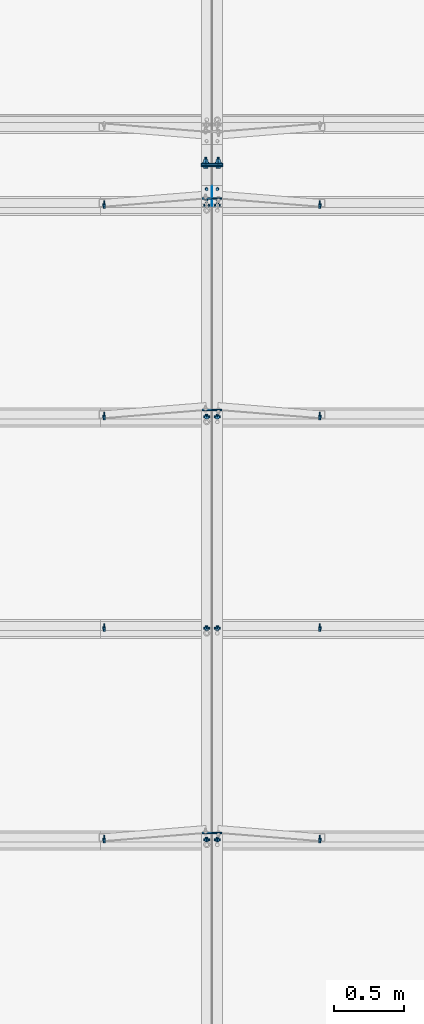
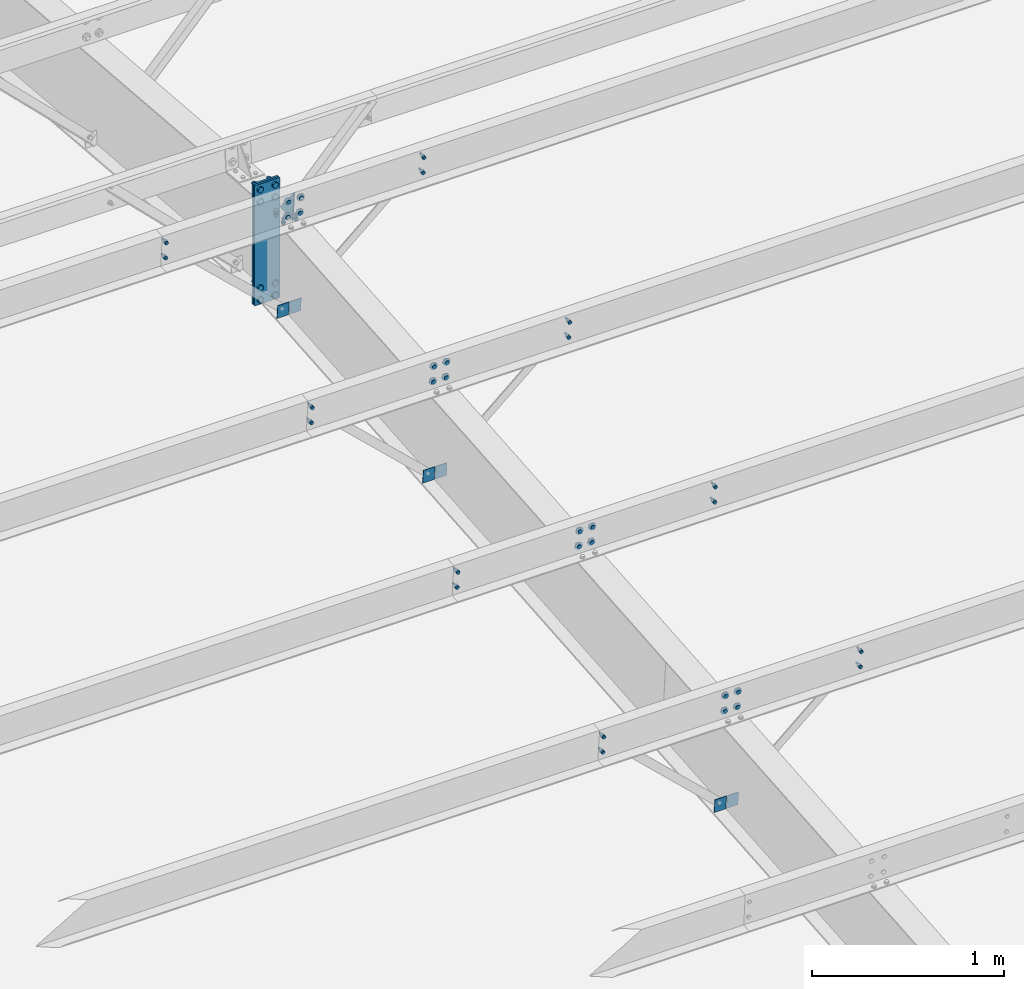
# One storey, part 78 of 185: 19 mechanical fasteners, 9 discrete accessories, 11 elements without a shape of their own.
"""IFC2X3 building model written with IfcOpenShell, lengths in millimetres."""

from ifc_helpers import new_model, si_unit, frame, origin_with_axes, origin_2d_with_axis, place, context, subcontext, project, spatial, polyline, rectangle, circle, outline, extrude, source, transform, mapped, material, type_object, element, aggregate, save


model = new_model("IFC2X3")

# Units and contexts
model_context = context("Model", 3, precision=1e-05, world=origin_with_axes())
body_context = subcontext(model_context, "Body", "Model", "MODEL_VIEW")
ifc_project = project(units=[si_unit("LENGTHUNIT", "METRE", prefix="MILLI"), si_unit("AREAUNIT", "SQUARE_METRE"), si_unit("VOLUMEUNIT", "CUBIC_METRE"), si_unit("MASSUNIT", "GRAM", prefix="KILO"), si_unit("TIMEUNIT", "SECOND"), si_unit("PLANEANGLEUNIT", "RADIAN"), si_unit("SOLIDANGLEUNIT", "STERADIAN"), si_unit("THERMODYNAMICTEMPERATUREUNIT", "DEGREE_CELSIUS"), si_unit("LUMINOUSINTENSITYUNIT", "LUMEN")], contexts=[model_context])

# Site, building, storey
site_placement = place(None, origin_with_axes())
site = spatial("IfcSite", under=ifc_project, at=site_placement, Name="Undefined", CompositionType="ELEMENT")
building_placement = place(site_placement, origin_with_axes())
building = spatial("IfcBuilding", under=site, at=building_placement, Name="Undefined", CompositionType="ELEMENT")
storey_placement = place(building_placement, origin_with_axes())
storey = spatial("IfcBuildingStorey", under=building, at=storey_placement, Name="Undefined", CompositionType="ELEMENT", Elevation=0.0)

# Assembly, mechanical fastener
assembly_1_placement = place(storey_placement, origin_with_axes())
assembly_1 = element("IfcElementAssembly", 1, at=assembly_1_placement, inside=storey, Name="Steel Assembly", AssemblyPlace="NOTDEFINED", PredefinedType="RIGID_FRAME")
ifc_material_1 = material(Name="Undefined")
discrete_accessory_type_1 = type_object("IfcDiscreteAccessoryType", Name="Bolt assembly")
shared_shape_1 = source(origin_with_axes(), body_context, "Body", "SweptSolid", [
    extrude(circle(Radius=7.14374971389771, at=origin_2d_with_axis()), frame((0.0, -1.59000001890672, 0.0), z_axis=(0.0, 1.0, 0.0), x_axis=(1.0, 0.0, 0.0)), (0.0, 0.0, 1.0), 3.3),
    extrude(circle(Radius=13.4937496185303, at=origin_2d_with_axis()), frame((0.0, -5.5587500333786, 0.0), z_axis=(0.0, 1.0, 0.0), x_axis=(1.0, 0.0, 0.0)), (0.0, 0.0, 1.0), 4.0),
    extrude(circle(Radius=22.2250003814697, at=origin_2d_with_axis()), frame((0.0, 1.5900000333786, 0.0), z_axis=(0.0, 1.0, 0.0), x_axis=(1.0, 0.0, 0.0)), (0.0, 0.0, 1.0), 7.9),
    extrude(outline(polyline([(12.8316099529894, 0.0), (6.4158049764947, 11.1125001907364), (-6.4158049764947, 11.1125001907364), (-12.8316099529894, 0.0), (-6.4158049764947, -11.1125001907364), (6.4158049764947, -11.1125001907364), (12.8316099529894, 0.0)])), frame((0.0, 9.5275000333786, 0.0), z_axis=(0.0, 1.0, 0.0), x_axis=(1.0, 0.0, 0.0)), (0.0, 0.0, 1.0), 12.3),
])
mechanical_fastener_1_placement = place(assembly_1_placement, frame((22517.1, 11146.2647809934, 6973.87931658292), z_axis=(1.0, 0.0, 0.0), x_axis=(0.0, 0.0830454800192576, -0.996545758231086)))
mechanical_fastener_1 = element("IfcMechanicalFastener", 2, at=mechanical_fastener_1_placement, type_object=discrete_accessory_type_1, material=ifc_material_1, Name="Bolt assembly", NominalDiameter=12.6999998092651, NominalLength=38.0999984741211, context=body_context, shape_type="MappedRepresentation", body=[
    mapped(shared_shape_1, transform((0.0, 0.0, 0.0))),
    mapped(shared_shape_1, transform((101.599998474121, 0.0, 0.0))),
])
aggregate(assembly_1, [mechanical_fastener_1])

assembly_2_placement = place(storey_placement, origin_with_axes())
assembly_2 = element("IfcElementAssembly", 3, at=assembly_2_placement, inside=storey, Name="Steel Assembly", AssemblyPlace="NOTDEFINED", PredefinedType="RIGID_FRAME")
mechanical_fastener_2_placement = place(assembly_2_placement, frame((22440.9, 11146.2647809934, 6973.87931658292), z_axis=(1.0, 0.0, 0.0), x_axis=(0.0, 0.0830454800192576, -0.996545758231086)))
mechanical_fastener_2 = element("IfcMechanicalFastener", 4, at=mechanical_fastener_2_placement, type_object=discrete_accessory_type_1, material=ifc_material_1, Name="Bolt assembly", NominalDiameter=12.6999998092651, NominalLength=38.0999984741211, context=body_context, shape_type="MappedRepresentation", body=[
    mapped(shared_shape_1, transform((0.0, 0.0, 0.0))),
    mapped(shared_shape_1, transform((101.599998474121, 0.0, 0.0))),
])

assembly_3_placement = place(storey_placement, origin_with_axes())
assembly_3 = element("IfcElementAssembly", 5, at=assembly_3_placement, inside=storey, Name="Steel Assembly", AssemblyPlace="NOTDEFINED", PredefinedType="RIGID_FRAME")
mechanical_fastener_3_placement = place(assembly_3_placement, frame((22517.1, 12665.0005165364, 7100.44062813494), z_axis=(1.0, 0.0, 0.0), x_axis=(0.0, 0.0830454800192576, -0.996545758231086)))
mechanical_fastener_3 = element("IfcMechanicalFastener", 6, at=mechanical_fastener_3_placement, type_object=discrete_accessory_type_1, material=ifc_material_1, Name="Bolt assembly", NominalDiameter=12.6999998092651, NominalLength=38.0999984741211, context=body_context, shape_type="MappedRepresentation", body=[
    mapped(shared_shape_1, transform((0.0, 0.0, 0.0))),
    mapped(shared_shape_1, transform((101.599998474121, 0.0, 0.0))),
])
aggregate(assembly_3, [mechanical_fastener_3])

assembly_4_placement = place(storey_placement, origin_with_axes())
assembly_4 = element("IfcElementAssembly", 7, at=assembly_4_placement, inside=storey, Name="Steel Assembly", AssemblyPlace="NOTDEFINED", PredefinedType="RIGID_FRAME")
mechanical_fastener_4_placement = place(assembly_4_placement, frame((22440.9, 12665.0005165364, 7100.44062813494), z_axis=(1.0, 0.0, 0.0), x_axis=(0.0, 0.0830454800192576, -0.996545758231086)))
mechanical_fastener_4 = element("IfcMechanicalFastener", 8, at=mechanical_fastener_4_placement, type_object=discrete_accessory_type_1, material=ifc_material_1, Name="Bolt assembly", NominalDiameter=12.6999998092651, NominalLength=38.0999984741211, context=body_context, shape_type="MappedRepresentation", body=[
    mapped(shared_shape_1, transform((0.0, 0.0, 0.0))),
    mapped(shared_shape_1, transform((101.599998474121, 0.0, 0.0))),
])

assembly_5_placement = place(storey_placement, origin_with_axes())
assembly_5 = element("IfcElementAssembly", 9, at=assembly_5_placement, inside=storey, Name="Steel Assembly", AssemblyPlace="NOTDEFINED", PredefinedType="RIGID_FRAME")
mechanical_fastener_5_placement = place(assembly_5_placement, frame((22517.1, 14183.7362520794, 7227.00193968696), z_axis=(1.0, 0.0, 0.0), x_axis=(0.0, 0.0830454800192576, -0.996545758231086)))
mechanical_fastener_5 = element("IfcMechanicalFastener", 10, at=mechanical_fastener_5_placement, type_object=discrete_accessory_type_1, material=ifc_material_1, Name="Bolt assembly", NominalDiameter=12.6999998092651, NominalLength=38.0999984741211, context=body_context, shape_type="MappedRepresentation", body=[
    mapped(shared_shape_1, transform((0.0, 0.0, 0.0))),
    mapped(shared_shape_1, transform((101.599998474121, 0.0, 0.0))),
])
aggregate(assembly_5, [mechanical_fastener_5])

assembly_6_placement = place(storey_placement, origin_with_axes())
assembly_6 = element("IfcElementAssembly", 11, at=assembly_6_placement, inside=storey, Name="Steel Assembly", AssemblyPlace="NOTDEFINED", PredefinedType="RIGID_FRAME")
mechanical_fastener_6_placement = place(assembly_6_placement, frame((22440.9, 14183.7362520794, 7227.00193968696), z_axis=(1.0, 0.0, 0.0), x_axis=(0.0, 0.0830454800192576, -0.996545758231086)))
mechanical_fastener_6 = element("IfcMechanicalFastener", 12, at=mechanical_fastener_6_placement, type_object=discrete_accessory_type_1, material=ifc_material_1, Name="Bolt assembly", NominalDiameter=12.6999998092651, NominalLength=38.0999984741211, context=body_context, shape_type="MappedRepresentation", body=[
    mapped(shared_shape_1, transform((0.0, 0.0, 0.0))),
    mapped(shared_shape_1, transform((101.599998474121, 0.0, 0.0))),
])

assembly_7_placement = place(storey_placement, origin_with_axes())
assembly_7 = element("IfcElementAssembly", 13, at=assembly_7_placement, inside=storey, Name="Steel Assembly", AssemblyPlace="NOTDEFINED", PredefinedType="RIGID_FRAME")
mechanical_fastener_7_placement = place(assembly_7_placement, frame((22517.1, 15702.4719876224, 7353.56325123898), z_axis=(1.0, 0.0, 0.0), x_axis=(0.0, 0.0830454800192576, -0.996545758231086)))
mechanical_fastener_7 = element("IfcMechanicalFastener", 14, at=mechanical_fastener_7_placement, type_object=discrete_accessory_type_1, material=ifc_material_1, Name="Bolt assembly", NominalDiameter=12.6999998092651, NominalLength=38.0999984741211, context=body_context, shape_type="MappedRepresentation", body=[
    mapped(shared_shape_1, transform((0.0, 0.0, 0.0))),
    mapped(shared_shape_1, transform((101.599998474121, 0.0, 0.0))),
])
aggregate(assembly_7, [mechanical_fastener_7])

assembly_8_placement = place(storey_placement, origin_with_axes())
assembly_8 = element("IfcElementAssembly", 15, at=assembly_8_placement, inside=storey, Name="Steel Assembly", AssemblyPlace="NOTDEFINED", PredefinedType="RIGID_FRAME")
mechanical_fastener_8_placement = place(assembly_8_placement, frame((22440.9, 15702.4719876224, 7353.56325123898), z_axis=(1.0, 0.0, 0.0), x_axis=(0.0, 0.0830454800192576, -0.996545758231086)))
mechanical_fastener_8 = element("IfcMechanicalFastener", 16, at=mechanical_fastener_8_placement, type_object=discrete_accessory_type_1, material=ifc_material_1, Name="Bolt assembly", NominalDiameter=12.6999998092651, NominalLength=38.0999984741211, context=body_context, shape_type="MappedRepresentation", body=[
    mapped(shared_shape_1, transform((0.0, 0.0, 0.0))),
    mapped(shared_shape_1, transform((101.599998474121, 0.0, 0.0))),
])

# Assembly, discrete accessory
assembly_9_placement = place(storey_placement, origin_with_axes())
assembly_9 = element("IfcElementAssembly", 17, at=assembly_9_placement, inside=storey, Name="Steel Assembly", AssemblyPlace="NOTDEFINED", PredefinedType="RIGID_FRAME")
ifc_material_2 = material(Name="STEEL/55")
discrete_accessory_type_2 = type_object("IfcDiscreteAccessoryType", Name="PLATE")
discrete_accessory_1_placement = place(assembly_9_placement, frame((22479.0, 15853.8182223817, 7219.61919678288), z_axis=(-1.0, 0.0, 0.0), x_axis=(0.0, -0.996545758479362, -0.0830454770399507)))
discrete_accessory_1 = element("IfcDiscreteAccessory", 18, at=discrete_accessory_1_placement, type_object=discrete_accessory_type_2, material=ifc_material_2, Name="PLATE", ObjectType="FL1/4\"X5 1/4\"", context=body_context, shape_type="SweptSolid", body=[
    extrude(outline(polyline([(0.0, 0.0), (133.350006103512, 3.70164343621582e-10), (133.350006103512, 190.500000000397), (0.0, 0.0)])), frame((0.0, 0.0, -3.175), z_axis=(0.0, 0.0, 1.0), x_axis=(1.0, 0.0, 0.0)), (0.0, 0.0, 1.0), 6.4),
])

# Assembly, discrete accessories
assembly_10_placement = place(storey_placement, origin_with_axes())
assembly_10 = element("IfcElementAssembly", 19, at=assembly_10_placement, inside=storey, Name="Steel Assembly", AssemblyPlace="NOTDEFINED", PredefinedType="RIGID_FRAME")
discrete_accessory_type_3 = type_object("IfcDiscreteAccessoryType", Name="FLANGE BRACE FLIP")
discrete_accessory_2_placement = place(assembly_10_placement, frame((22480.70815, 15761.151234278, 6628.84524774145), z_axis=(0.0, -0.0830454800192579, 0.996545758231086), x_axis=(1.0, 0.0, 0.0)))
discrete_accessory_2 = element("IfcDiscreteAccessory", 20, at=discrete_accessory_2_placement, type_object=discrete_accessory_type_3, material=ifc_material_2, Name="FLANGE BRACE FLIP", ObjectType="PL1/8\"X2 3/4\"", context=body_context, shape_type="SweptSolid", body=[
    extrude(rectangle(XDim=3.416, YDim=85.725, at=origin_2d_with_axis()), frame((69.8499999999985, 0.0, 0.0), z_axis=(-1.0, 0.0, 0.0), x_axis=(0.0, -1.0, 0.0)), (0.0, 0.0, 1.0), 69.8),
])
discrete_accessory_3_placement = place(assembly_10_placement, frame((22477.29185, 15761.151234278, 6628.84524774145), z_axis=(0.0, -0.0830454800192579, 0.996545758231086), x_axis=(-1.0, 0.0, 0.0)))
discrete_accessory_3 = element("IfcDiscreteAccessory", 21, at=discrete_accessory_3_placement, type_object=discrete_accessory_type_3, material=ifc_material_2, Name="FLANGE BRACE FLIP", ObjectType="PL1/8\"X2 3/4\"", context=body_context, shape_type="SweptSolid", body=[
    extrude(rectangle(XDim=3.416, YDim=85.725, at=origin_2d_with_axis()), frame((69.8499999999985, 0.0, 0.0), z_axis=(-1.0, 0.0, 0.0), x_axis=(0.0, -1.0, 0.0)), (0.0, 0.0, 1.0), 69.8),
])
discrete_accessory_4_placement = place(assembly_10_placement, frame((22480.70815, 14242.4154987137, 6502.28393644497), z_axis=(0.0, -0.0830454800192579, 0.996545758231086), x_axis=(1.0, 0.0, 0.0)))
discrete_accessory_4 = element("IfcDiscreteAccessory", 22, at=discrete_accessory_4_placement, type_object=discrete_accessory_type_3, material=ifc_material_2, Name="FLANGE BRACE FLIP", ObjectType="PL1/8\"X2 3/4\"", context=body_context, shape_type="SweptSolid", body=[
    extrude(rectangle(XDim=3.416, YDim=85.725, at=origin_2d_with_axis()), frame((69.8499999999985, 0.0, 0.0), z_axis=(-1.0, 0.0, 0.0), x_axis=(0.0, -1.0, 0.0)), (0.0, 0.0, 1.0), 69.8),
])
discrete_accessory_5_placement = place(assembly_10_placement, frame((22477.29185, 14242.4154987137, 6502.28393644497), z_axis=(0.0, -0.0830454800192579, 0.996545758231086), x_axis=(-1.0, 0.0, 0.0)))
discrete_accessory_5 = element("IfcDiscreteAccessory", 23, at=discrete_accessory_5_placement, type_object=discrete_accessory_type_3, material=ifc_material_2, Name="FLANGE BRACE FLIP", ObjectType="PL1/8\"X2 3/4\"", context=body_context, shape_type="SweptSolid", body=[
    extrude(rectangle(XDim=3.416, YDim=85.725, at=origin_2d_with_axis()), frame((69.8499999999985, 0.0, 0.0), z_axis=(-1.0, 0.0, 0.0), x_axis=(0.0, -1.0, 0.0)), (0.0, 0.0, 1.0), 69.8),
])
discrete_accessory_6_placement = place(assembly_10_placement, frame((22480.70815, 11204.9440275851, 6249.16131385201), z_axis=(0.0, -0.0830454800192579, 0.996545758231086), x_axis=(1.0, 0.0, 0.0)))
discrete_accessory_6 = element("IfcDiscreteAccessory", 24, at=discrete_accessory_6_placement, type_object=discrete_accessory_type_3, material=ifc_material_2, Name="FLANGE BRACE FLIP", ObjectType="PL1/8\"X2 3/4\"", context=body_context, shape_type="SweptSolid", body=[
    extrude(rectangle(XDim=3.416, YDim=85.725, at=origin_2d_with_axis()), frame((69.8499999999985, 0.0, 0.0), z_axis=(-1.0, 0.0, 0.0), x_axis=(0.0, -1.0, 0.0)), (0.0, 0.0, 1.0), 69.8),
])
discrete_accessory_7_placement = place(assembly_10_placement, frame((22477.29185, 11204.9440275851, 6249.16131385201), z_axis=(0.0, -0.0830454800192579, 0.996545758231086), x_axis=(-1.0, 0.0, 0.0)))
discrete_accessory_7 = element("IfcDiscreteAccessory", 25, at=discrete_accessory_7_placement, type_object=discrete_accessory_type_3, material=ifc_material_2, Name="FLANGE BRACE FLIP", ObjectType="PL1/8\"X2 3/4\"", context=body_context, shape_type="SweptSolid", body=[
    extrude(rectangle(XDim=3.416, YDim=85.725, at=origin_2d_with_axis()), frame((69.8499999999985, 0.0, 0.0), z_axis=(-1.0, 0.0, 0.0), x_axis=(0.0, -1.0, 0.0)), (0.0, 0.0, 1.0), 69.8),
])

# Mechanical fastener
shared_shape_2 = source(origin_with_axes(), body_context, "Body", "SweptSolid", [
    extrude(circle(Radius=7.14374971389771, at=origin_2d_with_axis()), frame((0.0, -0.0238014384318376, 0.0), z_axis=(0.0, 1.0, 0.0), x_axis=(1.0, 0.0, 0.0)), (0.0, 0.0, 1.0), 8.0),
    extrude(circle(Radius=7.14374971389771, at=origin_2d_with_axis()), frame((0.0, -6.24999999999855, 0.0), z_axis=(0.0, 1.0, 0.0), x_axis=(1.0, 0.0, 0.0)), (0.0, 0.0, 1.0), 6.4),
    extrude(outline(polyline([(10.9985221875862, 0.0), (5.4992610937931, 9.52499961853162), (-5.4992610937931, 9.52499961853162), (-10.9985221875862, 0.0), (-5.4992610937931, -9.52499961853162), (5.4992610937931, -9.52499961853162), (10.9985221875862, 0.0)])), frame((0.0, -15.8750000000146, 0.0), z_axis=(0.0, 1.0, 0.0), x_axis=(1.0, 0.0, 0.0)), (0.0, 0.0, 1.0), 9.5),
    extrude(circle(Radius=6.34999990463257, at=origin_2d_with_axis()), frame((0.0, -6.34999953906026, 0.0), z_axis=(0.0, 1.0, 0.0), x_axis=(1.0, 0.0, 0.0)), (0.0, 0.0, 1.0), 38.1),
    extrude(outline(polyline([(12.8316099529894, 0.0), (6.4158049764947, 11.1125001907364), (-6.4158049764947, 11.1125001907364), (-12.8316099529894, 0.0), (-6.4158049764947, -11.1125001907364), (6.4158049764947, -11.1125001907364), (12.8316099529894, 0.0)])), frame((0.0, 7.95019856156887, 0.0), z_axis=(0.0, 1.0, 0.0), x_axis=(1.0, 0.0, 0.0)), (0.0, 0.0, 1.0), 12.3),
])
mechanical_fastener_9_placement = place(assembly_9_placement, frame((22479.0, 15753.0965121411, 7204.85371046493), z_axis=(-1.0, 0.0, 0.0), x_axis=(0.0, 0.996545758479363, 0.0830454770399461)))
mechanical_fastener_9 = element("IfcMechanicalFastener", 26, at=mechanical_fastener_9_placement, type_object=discrete_accessory_type_1, material=ifc_material_1, Name="Bolt assembly", NominalDiameter=12.6999998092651, NominalLength=38.0999984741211, context=body_context, shape_type="MappedRepresentation", body=[
    mapped(shared_shape_2, transform((0.0, 0.0, -38.0999984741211))),
    mapped(shared_shape_2, transform((76.1999969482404, -1.38243194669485e-10, -38.0999984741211))),
    mapped(shared_shape_2, transform((0.0, 0.0, 38.0999984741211))),
    mapped(shared_shape_2, transform((76.1999969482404, -1.38243194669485e-10, 38.0999984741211))),
])

aggregate(assembly_9, [mechanical_fastener_9, discrete_accessory_1])

shared_shape_3 = source(origin_with_axes(), body_context, "Body", "SweptSolid", [
    extrude(circle(Radius=7.14374971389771, at=origin_2d_with_axis()), frame((0.0, -1.4900000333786, 0.0), z_axis=(0.0, 1.0, 0.0), x_axis=(1.0, 0.0, 0.0)), (0.0, 0.0, 1.0), 3.2),
    extrude(circle(Radius=7.14374971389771, at=origin_2d_with_axis()), frame((0.0, -1.4900000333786, 0.0), z_axis=(0.0, 1.0, 0.0), x_axis=(1.0, 0.0, 0.0)), (0.0, 0.0, 1.0), 3.2),
    extrude(outline(polyline([(10.9985221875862, 0.0), (5.4992610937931, 9.52499961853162), (-5.4992610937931, 9.52499961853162), (-10.9985221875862, 0.0), (-5.4992610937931, -9.52499961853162), (5.4992610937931, -9.52499961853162), (10.9985221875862, 0.0)])), frame((0.0, -11.1149996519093, 0.0), z_axis=(0.0, 1.0, 0.0), x_axis=(1.0, 0.0, 0.0)), (0.0, 0.0, 1.0), 9.5),
    extrude(circle(Radius=6.34999990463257, at=origin_2d_with_axis()), frame((0.0, -1.59000001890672, 0.0), z_axis=(0.0, 1.0, 0.0), x_axis=(1.0, 0.0, 0.0)), (0.0, 0.0, 1.0), 38.1),
    extrude(outline(polyline([(12.8316099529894, 0.0), (6.4158049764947, 11.1125001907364), (-6.4158049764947, 11.1125001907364), (-12.8316099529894, 0.0), (-6.4158049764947, -11.1125001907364), (6.4158049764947, -11.1125001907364), (12.8316099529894, 0.0)])), frame((0.0, 1.5900000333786, 0.0), z_axis=(0.0, 1.0, 0.0), x_axis=(1.0, 0.0, 0.0)), (0.0, 0.0, 1.0), 12.3),
])
mechanical_fastener_10_placement = place(assembly_2_placement, frame((23253.7, 11146.2647809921, 6973.87931658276), z_axis=(1.0, 0.0, 0.0), x_axis=(0.0, 0.0830454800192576, -0.996545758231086)))
mechanical_fastener_10 = element("IfcMechanicalFastener", 27, at=mechanical_fastener_10_placement, type_object=discrete_accessory_type_1, material=ifc_material_1, Name="Bolt assembly", NominalDiameter=12.6999998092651, NominalLength=38.0999984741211, context=body_context, shape_type="MappedRepresentation", body=[
    mapped(shared_shape_3, transform((0.0, 0.0, 0.0))),
    mapped(shared_shape_3, transform((101.599998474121, 0.0, 0.0))),
])

mechanical_fastener_11_placement = place(assembly_2_placement, frame((21704.3, 11146.2647809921, 6973.87931658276), z_axis=(1.0, 0.0, 0.0), x_axis=(0.0, 0.0830454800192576, -0.996545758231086)))
mechanical_fastener_11 = element("IfcMechanicalFastener", 28, at=mechanical_fastener_11_placement, type_object=discrete_accessory_type_1, material=ifc_material_1, Name="Bolt assembly", NominalDiameter=12.6999998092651, NominalLength=38.0999984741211, context=body_context, shape_type="MappedRepresentation", body=[
    mapped(shared_shape_3, transform((0.0, 0.0, 0.0))),
    mapped(shared_shape_3, transform((101.599998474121, 0.0, 0.0))),
])

aggregate(assembly_2, [mechanical_fastener_2, mechanical_fastener_10, mechanical_fastener_11])

mechanical_fastener_12_placement = place(assembly_4_placement, frame((23253.7, 12665.0005165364, 7100.44062813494), z_axis=(1.0, 0.0, 0.0), x_axis=(0.0, 0.0830454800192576, -0.996545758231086)))
mechanical_fastener_12 = element("IfcMechanicalFastener", 29, at=mechanical_fastener_12_placement, type_object=discrete_accessory_type_1, material=ifc_material_1, Name="Bolt assembly", NominalDiameter=12.6999998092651, NominalLength=38.0999984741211, context=body_context, shape_type="MappedRepresentation", body=[
    mapped(shared_shape_3, transform((0.0, 0.0, 0.0))),
    mapped(shared_shape_3, transform((101.599998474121, 0.0, 0.0))),
])

mechanical_fastener_13_placement = place(assembly_4_placement, frame((21704.3, 12665.0005165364, 7100.44062813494), z_axis=(1.0, 0.0, 0.0), x_axis=(0.0, 0.0830454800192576, -0.996545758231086)))
mechanical_fastener_13 = element("IfcMechanicalFastener", 30, at=mechanical_fastener_13_placement, type_object=discrete_accessory_type_1, material=ifc_material_1, Name="Bolt assembly", NominalDiameter=12.6999998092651, NominalLength=38.0999984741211, context=body_context, shape_type="MappedRepresentation", body=[
    mapped(shared_shape_3, transform((0.0, 0.0, 0.0))),
    mapped(shared_shape_3, transform((101.599998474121, 0.0, 0.0))),
])

aggregate(assembly_4, [mechanical_fastener_4, mechanical_fastener_12, mechanical_fastener_13])

mechanical_fastener_14_placement = place(assembly_6_placement, frame((23253.7, 14183.7362520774, 7227.00193968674), z_axis=(1.0, 0.0, 0.0), x_axis=(0.0, 0.0830454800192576, -0.996545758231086)))
mechanical_fastener_14 = element("IfcMechanicalFastener", 31, at=mechanical_fastener_14_placement, type_object=discrete_accessory_type_1, material=ifc_material_1, Name="Bolt assembly", NominalDiameter=12.6999998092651, NominalLength=38.0999984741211, context=body_context, shape_type="MappedRepresentation", body=[
    mapped(shared_shape_3, transform((0.0, 0.0, 0.0))),
    mapped(shared_shape_3, transform((101.599998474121, 0.0, 0.0))),
])

mechanical_fastener_15_placement = place(assembly_6_placement, frame((21704.3, 14183.7362520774, 7227.00193968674), z_axis=(1.0, 0.0, 0.0), x_axis=(0.0, 0.0830454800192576, -0.996545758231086)))
mechanical_fastener_15 = element("IfcMechanicalFastener", 32, at=mechanical_fastener_15_placement, type_object=discrete_accessory_type_1, material=ifc_material_1, Name="Bolt assembly", NominalDiameter=12.6999998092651, NominalLength=38.0999984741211, context=body_context, shape_type="MappedRepresentation", body=[
    mapped(shared_shape_3, transform((0.0, 0.0, 0.0))),
    mapped(shared_shape_3, transform((101.599998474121, 0.0, 0.0))),
])

aggregate(assembly_6, [mechanical_fastener_6, mechanical_fastener_14, mechanical_fastener_15])

mechanical_fastener_16_placement = place(assembly_8_placement, frame((23253.7, 15702.47198762, 7353.56325123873), z_axis=(1.0, 0.0, 0.0), x_axis=(0.0, 0.0830454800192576, -0.996545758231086)))
mechanical_fastener_16 = element("IfcMechanicalFastener", 33, at=mechanical_fastener_16_placement, type_object=discrete_accessory_type_1, material=ifc_material_1, Name="Bolt assembly", NominalDiameter=12.6999998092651, NominalLength=38.0999984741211, context=body_context, shape_type="MappedRepresentation", body=[
    mapped(shared_shape_3, transform((0.0, 0.0, 0.0))),
    mapped(shared_shape_3, transform((101.599998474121, 0.0, 0.0))),
])

mechanical_fastener_17_placement = place(assembly_8_placement, frame((21704.3, 15702.47198762, 7353.56325123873), z_axis=(1.0, 0.0, 0.0), x_axis=(0.0, 0.0830454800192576, -0.996545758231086)))
mechanical_fastener_17 = element("IfcMechanicalFastener", 34, at=mechanical_fastener_17_placement, type_object=discrete_accessory_type_1, material=ifc_material_1, Name="Bolt assembly", NominalDiameter=12.6999998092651, NominalLength=38.0999984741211, context=body_context, shape_type="MappedRepresentation", body=[
    mapped(shared_shape_3, transform((0.0, 0.0, 0.0))),
    mapped(shared_shape_3, transform((101.599998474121, 0.0, 0.0))),
])

aggregate(assembly_8, [mechanical_fastener_8, mechanical_fastener_16, mechanical_fastener_17])

shared_shape_4 = source(origin_with_axes(), body_context, "Body", "SweptSolid", [
    extrude(circle(Radius=10.3187494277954, at=origin_2d_with_axis()), frame((0.0, -0.1, 0.0), z_axis=(0.0, 1.0, 0.0), x_axis=(1.0, 0.0, 0.0)), (0.0, 0.0, 1.0), 12.8),
    extrude(circle(Radius=10.3187494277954, at=origin_2d_with_axis()), frame((0.0, -12.5999999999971, 0.0), z_axis=(0.0, 1.0, 0.0), x_axis=(1.0, 0.0, 0.0)), (0.0, 0.0, 1.0), 12.7),
    extrude(outline(polyline([(18.3308710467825, 0.0), (9.16543552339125, 15.8750000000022), (-9.16543552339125, 15.8750000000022), (-18.3308710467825, 0.0), (-9.16543552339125, -15.8750000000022), (9.16543552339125, -15.8750000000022), (18.3308710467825, 0.0)])), frame((0.0, -24.6062499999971, 0.0), z_axis=(0.0, 1.0, 0.0), x_axis=(1.0, 0.0, 0.0)), (0.0, 0.0, 1.0), 11.9),
    extrude(circle(Radius=9.52499961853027, at=origin_2d_with_axis()), frame((0.0, -12.6999999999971, 0.0), z_axis=(0.0, 1.0, 0.0), x_axis=(1.0, 0.0, 0.0)), (0.0, 0.0, 1.0), 69.8),
    extrude(circle(Radius=22.2250003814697, at=origin_2d_with_axis()), frame((0.0, 12.6999999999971, 0.0), z_axis=(0.0, 1.0, 0.0), x_axis=(1.0, 0.0, 0.0)), (0.0, 0.0, 1.0), 7.9),
    extrude(outline(polyline([(18.3308710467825, 0.0), (9.16543552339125, 15.8750000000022), (-9.16543552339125, 15.8750000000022), (-18.3308710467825, 0.0), (-9.16543552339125, -15.8750000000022), (9.16543552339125, -15.8750000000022), (18.3308710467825, 0.0)])), frame((0.0, 20.6374999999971, 0.0), z_axis=(0.0, 1.0, 0.0), x_axis=(1.0, 0.0, 0.0)), (0.0, 0.0, 1.0), 19.0),
])
mechanical_fastener_18_placement = place(assembly_10_placement, frame((22479.0, 16001.9999999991, 6561.9804128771), z_axis=(-1.0, 0.0, 0.0), x_axis=(0.0, 0.0, 1.0)))
mechanical_fastener_18 = element("IfcMechanicalFastener", 35, at=mechanical_fastener_18_placement, type_object=discrete_accessory_type_1, material=ifc_material_1, Name="Bolt assembly", NominalDiameter=19.0499992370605, NominalLength=69.8499984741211, context=body_context, shape_type="MappedRepresentation", body=[
    mapped(shared_shape_4, transform((0.0, 0.0, -44.4500007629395))),
    mapped(shared_shape_4, transform((76.1999969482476, 0.0, -44.4500007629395))),
    mapped(shared_shape_4, transform((0.0, 0.0, 44.4500007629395))),
    mapped(shared_shape_4, transform((76.1999969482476, 0.0, 44.4500007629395))),
])

mechanical_fastener_19_placement = place(assembly_10_placement, frame((22479.0, 16001.9999999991, 7262.06791218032), z_axis=(1.0, 0.0, 0.0), x_axis=(0.0, 0.0, -1.0)))
mechanical_fastener_19 = element("IfcMechanicalFastener", 36, at=mechanical_fastener_19_placement, type_object=discrete_accessory_type_1, material=ifc_material_1, Name="Bolt assembly", NominalDiameter=19.0499992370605, NominalLength=69.8499984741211, context=body_context, shape_type="MappedRepresentation", body=[
    mapped(shared_shape_4, transform((0.0, 0.0, -44.4500007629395))),
    mapped(shared_shape_4, transform((76.1999969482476, 0.0, -44.4500007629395))),
    mapped(shared_shape_4, transform((0.0, 0.0, 44.4500007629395))),
    mapped(shared_shape_4, transform((76.1999969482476, 0.0, 44.4500007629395))),
])

# Assembly, discrete accessory
assembly_11_placement = place(storey_placement, origin_with_axes())
assembly_11 = element("IfcElementAssembly", 37, at=assembly_11_placement, inside=storey, Name="Steel Assembly", AssemblyPlace="NOTDEFINED", PredefinedType="RIGID_FRAME")
discrete_accessory_type_4 = type_object("IfcDiscreteAccessoryType", Name="Rafter Ridge Plate")
discrete_accessory_8_placement = place(assembly_11_placement, frame((22479.0, 16008.3500000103, 7293.81790912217), z_axis=(-1.0, 0.0, 0.0), x_axis=(0.0, 0.0, -1.0)))
discrete_accessory_8 = element("IfcDiscreteAccessory", 38, at=discrete_accessory_8_placement, type_object=discrete_accessory_type_4, material=ifc_material_2, Name="Rafter Ridge Plate", ObjectType="FL1/2\"X6\"", context=body_context, shape_type="SweptSolid", body=[
    extrude(rectangle(XDim=12.7, YDim=152.4, at=origin_2d_with_axis()), frame((763.587493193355, 0.0, 0.0), z_axis=(-1.0, 0.0, 0.0), x_axis=(0.0, -1.0, 0.0)), (0.0, 0.0, 1.0), 763.6),
])
aggregate(assembly_11, [discrete_accessory_8])

# Discrete accessory
discrete_accessory_9_placement = place(assembly_10_placement, frame((22479.0, 15995.6499999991, 7293.81790912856), z_axis=(1.0, 0.0, 0.0), x_axis=(0.0, 0.0, -1.0)))
discrete_accessory_9 = element("IfcDiscreteAccessory", 39, at=discrete_accessory_9_placement, type_object=discrete_accessory_type_4, material=ifc_material_2, Name="Rafter Ridge Plate", ObjectType="FL1/2\"X6\"", context=body_context, shape_type="SweptSolid", body=[
    extrude(rectangle(XDim=12.7, YDim=152.4, at=origin_2d_with_axis()), frame((763.587493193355, 0.0, 0.0), z_axis=(-1.0, 0.0, 0.0), x_axis=(0.0, -1.0, 0.0)), (0.0, 0.0, 1.0), 763.6),
])

aggregate(assembly_10, [discrete_accessory_2, discrete_accessory_3, discrete_accessory_4, discrete_accessory_5, discrete_accessory_6, discrete_accessory_7, mechanical_fastener_18, mechanical_fastener_19, discrete_accessory_9])

save(model, "model.ifc")
